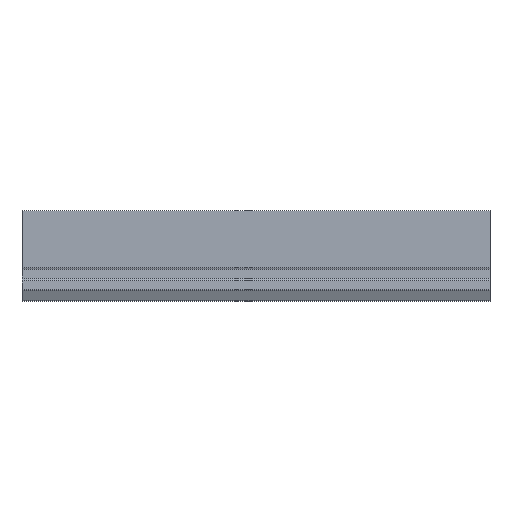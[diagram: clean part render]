
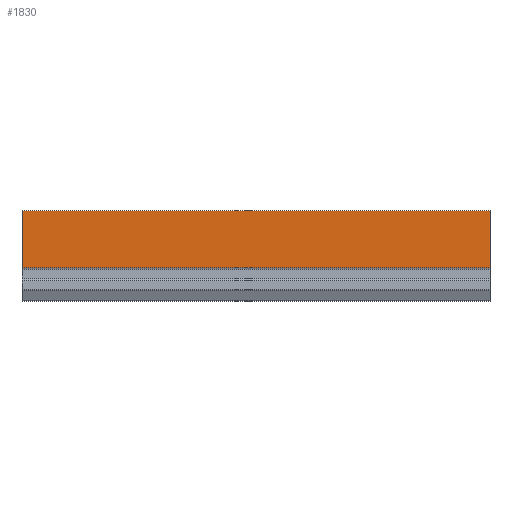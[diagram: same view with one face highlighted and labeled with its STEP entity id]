
A CAD part, top view. The second image highlights one B-rep face of the part: STEP entity #1830.
In plain terms, the highlighted planar face has unit normal (0, 0, 1).
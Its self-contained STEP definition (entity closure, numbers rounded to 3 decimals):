
#26 = VERTEX_POINT ( 'NONE', #3014 ) ;
#34 = LINE ( 'NONE', #2030, #413 ) ;
#102 = CARTESIAN_POINT ( 'NONE',  ( 200., 17.374, 14.508 ) ) ;
#240 = EDGE_CURVE ( 'NONE', #326, #434, #1197, .T. ) ;
#259 = PLANE ( 'NONE',  #2730 ) ;
#326 = VERTEX_POINT ( 'NONE', #1398 ) ;
#413 = VECTOR ( 'NONE', #1041, 1000. ) ;
#434 = VERTEX_POINT ( 'NONE', #1825 ) ;
#586 = CARTESIAN_POINT ( 'NONE',  ( 0., 17.374, 14.508 ) ) ;
#720 = DIRECTION ( 'NONE',  ( 0., -1., 0. ) ) ;
#817 = VECTOR ( 'NONE', #1090, 1000. ) ;
#818 = VECTOR ( 'NONE', #720, 1000. ) ;
#842 = ORIENTED_EDGE ( 'NONE', *, *, #240, .F. ) ;
#869 = ORIENTED_EDGE ( 'NONE', *, *, #1010, .T. ) ;
#1010 = EDGE_CURVE ( 'NONE', #2927, #26, #34, .T. ) ;
#1041 = DIRECTION ( 'NONE',  ( 0., -1., 0. ) ) ;
#1062 = EDGE_LOOP ( 'NONE', ( #869, #1804, #842, #2354 ) ) ;
#1090 = DIRECTION ( 'NONE',  ( -1., 0., 0. ) ) ;
#1103 = EDGE_CURVE ( 'NONE', #326, #2927, #1627, .T. ) ;
#1197 = LINE ( 'NONE', #1418, #818 ) ;
#1398 = CARTESIAN_POINT ( 'NONE',  ( 200., 17.374, 14.508 ) ) ;
#1418 = CARTESIAN_POINT ( 'NONE',  ( 200., 17.374, 14.508 ) ) ;
#1627 = LINE ( 'NONE', #2137, #2350 ) ;
#1640 = CARTESIAN_POINT ( 'NONE',  ( 200., -7.097, 14.508 ) ) ;
#1804 = ORIENTED_EDGE ( 'NONE', *, *, #1927, .F. ) ;
#1825 = CARTESIAN_POINT ( 'NONE',  ( 200., -7.097, 14.508 ) ) ;
#1830 = ADVANCED_FACE ( 'NONE', ( #2551 ), #259, .F. ) ;
#1927 = EDGE_CURVE ( 'NONE', #434, #26, #2810, .T. ) ;
#2030 = CARTESIAN_POINT ( 'NONE',  ( 0., 17.374, 14.508 ) ) ;
#2137 = CARTESIAN_POINT ( 'NONE',  ( 200., 17.374, 14.508 ) ) ;
#2327 = DIRECTION ( 'NONE',  ( -1., 0., 0. ) ) ;
#2350 = VECTOR ( 'NONE', #2372, 1000. ) ;
#2354 = ORIENTED_EDGE ( 'NONE', *, *, #1103, .T. ) ;
#2372 = DIRECTION ( 'NONE',  ( -1., 0., 0. ) ) ;
#2551 = FACE_OUTER_BOUND ( 'NONE', #1062, .T. ) ;
#2581 = DIRECTION ( 'NONE',  ( 0., 0., -1. ) ) ;
#2730 = AXIS2_PLACEMENT_3D ( 'NONE', #102, #2581, #2327 ) ;
#2810 = LINE ( 'NONE', #1640, #817 ) ;
#2927 = VERTEX_POINT ( 'NONE', #586 ) ;
#3014 = CARTESIAN_POINT ( 'NONE',  ( 0., -7.097, 14.508 ) ) ;
